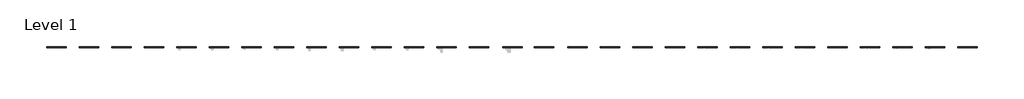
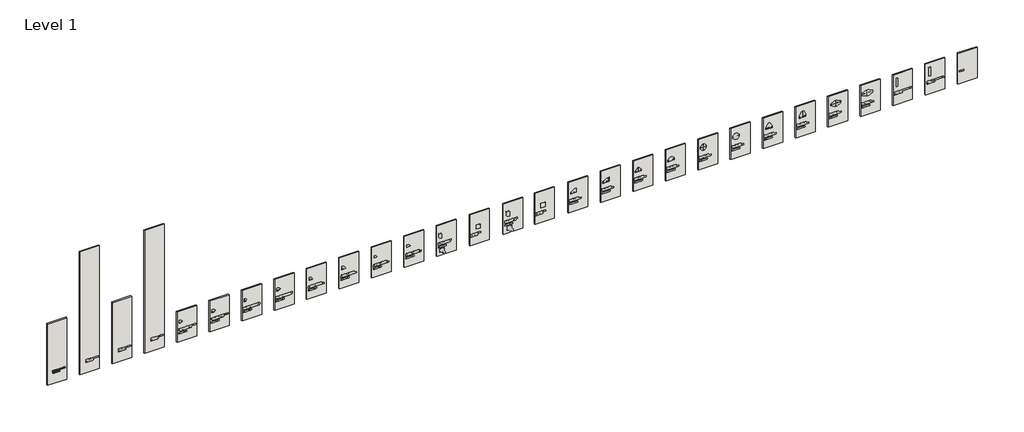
# One storey, part 1 of 21: 29 walls, 2 proxies.
"""IFC4 building model written with IfcOpenShell, lengths in millimetres."""

from ifc_helpers import new_model, si_unit, frame, origin, origin_with_axes, place, context, project, spatial, polyline, outline, extrude, element, save

model = new_model("IFC4")

# Units and contexts
model_context = context("Model", 3, world=origin())
ifc_project = project(units=[si_unit("LENGTHUNIT", "METRE", prefix="MILLI")], contexts=[model_context])

# Site, building, storey
site = spatial("IfcSite", under=ifc_project)
building = spatial("IfcBuilding", under=site)
storey = spatial("IfcBuildingStorey", under=building, Name="Level 1", Elevation=0.0)

# Proxies
placement = place(None, origin())
element("IfcBuildingElementProxy", 1, Name="2\"\" Arial", ObjectType="2\"\" Arial", at=placement, inside=storey, context=model_context, shape_type="SweptSolid", body=[
    extrude(outline(polyline([(625.0991907, -3520.867514), (625.0991907, -3502.2526403), (609.1435847, -3502.2526403), (604.559118, -3502.6543005), (602.8139736, -3504.1778393), (602.0522042, -3507.7096792), (602.0522042, -3509.3440208), (600.2793591, -3509.3440208), (600.2793591, -3482.7513441), (602.0522042, -3482.7513441), (602.0522042, -3484.3856857), (602.7585722, -3487.7651717), (604.4136893, -3489.4341391), (609.1435847, -3489.8427245), (643.7140644, -3489.8427245), (648.298531, -3489.4410643), (650.0436754, -3487.9175255), (650.8054448, -3484.3856857), (650.8054448, -3482.7513441), (652.5782899, -3482.7513441), (652.5782899, -3509.3440208), (650.8054448, -3509.3440208), (650.8054448, -3507.7096792), (650.0990768, -3504.3301932), (648.4439597, -3502.6612257), (643.7140644, -3502.2526403), (628.6448809, -3502.2526403), (628.6448809, -3520.867514), (643.7140644, -3520.867514), (648.298531, -3520.4658538), (650.0436754, -3518.942315), (650.8054448, -3515.4381758), (650.8054448, -3513.7761336), (652.5782899, -3513.7761336), (652.5782899, -3540.3688102), (650.8054448, -3540.3688102), (650.8054448, -3538.6929176), (650.0990768, -3535.3411323), (648.4439597, -3533.6860152), (643.7140644, -3533.2774298), (609.1435847, -3533.2774298), (604.559118, -3533.67909), (602.8139736, -3535.1749281), (602.0522042, -3538.6929176), (602.0522042, -3540.3688102), (600.2793591, -3540.3688102), (600.2793591, -3513.7761336), (602.0522042, -3513.7761336), (602.0522042, -3515.4381758), (602.7585722, -3518.783036), (604.4136893, -3520.4450783), (609.1435847, -3520.867514), (625.0991907, -3520.867514)])), frame((0.0, -15490.3579358, 0.0), z_axis=(0.0, 1.0, 0.0), x_axis=(0.0, 0.0, 1.0)), (0.0, 0.0, 1.0), 12.7),
    extrude(outline(polyline([(653.4647125, -3441.9759065), (653.4647125, -3443.7487516), (650.5284378, -3444.8567798), (649.9190223, -3446.4911214), (651.1586288, -3450.2514921), (652.855297, -3454.8013329), (653.4647125, -3459.8844122), (649.1364773, -3471.8164908), (638.6448354, -3476.5463862), (632.0382173, -3474.9120446), (626.6019539, -3470.2306255), (620.6947786, -3459.3857995), (616.6504757, -3451.6296021), (613.3817925, -3448.3678441), (609.8222519, -3447.2944418), (604.3859886, -3449.9606347), (602.0522042, -3457.1281921), (606.366589, -3467.9799432), (618.8942328, -3474.7735411), (618.8942328, -3476.5463862), (599.3929366, -3476.5463862), (599.3929366, -3474.7735411), (602.0660546, -3472.9522197), (602.9386268, -3470.8123403), (602.0799049, -3467.7514124), (599.9538758, -3462.2043462), (599.3929366, -3457.5160019), (604.0743557, -3444.4551196), (615.2654405, -3439.3166388), (624.365122, -3441.9343554), (632.813837, -3454.6212783), (637.3013512, -3463.7625109), (640.8608918, -3467.6821606), (643.9218197, -3468.5685832), (648.7209668, -3466.1447715), (650.8054448, -3459.5658541), (646.6711146, -3449.5520493), (635.7362614, -3443.7487516), (635.7362614, -3441.9759065), (653.4647125, -3441.9759065)])), frame((0.0, -15490.3579358, 0.0), z_axis=(0.0, 1.0, 0.0), x_axis=(0.0, 0.0, 1.0)), (0.0, 0.0, 1.0), 12.7),
    extrude(outline(polyline([(653.4647125, -3398.5412012), (653.4647125, -3400.3140463), (650.5284378, -3401.4220745), (649.9190223, -3403.0564161), (651.1586288, -3406.8167868), (652.855297, -3411.3666276), (653.4647125, -3416.4497069), (649.1364773, -3428.3817856), (638.6448354, -3433.1116809), (632.0382173, -3431.4773393), (626.6019539, -3426.7959202), (620.6947786, -3415.9510943), (616.6504757, -3408.1948969), (613.3817925, -3404.9331389), (609.8222519, -3403.8597366), (604.3859886, -3406.5259294), (602.0522042, -3413.6934868), (606.366589, -3424.5452379), (618.8942328, -3431.3388358), (618.8942328, -3433.1116809), (599.3929366, -3433.1116809), (599.3929366, -3431.3388358), (602.0660546, -3429.5175145), (602.9386268, -3427.377635), (602.0799049, -3424.3167071), (599.9538758, -3418.769641), (599.3929366, -3414.0812967), (604.0743557, -3401.0204143), (615.2654405, -3395.8819336), (624.365122, -3398.4996502), (632.813837, -3411.186573), (637.3013512, -3420.3278056), (640.8608918, -3424.2474554), (643.9218197, -3425.1338779), (648.7209668, -3422.7100662), (650.8054448, -3416.1311488), (646.6711146, -3406.117344), (635.7362614, -3400.3140463), (635.7362614, -3398.5412012), (653.4647125, -3398.5412012)])), frame((0.0, -15490.3579358, 0.0), z_axis=(0.0, 1.0, 0.0), x_axis=(0.0, 0.0, 1.0)), (0.0, 0.0, 1.0), 12.7),
    extrude(outline(polyline([(653.4647125, -3335.6051997), (653.4647125, -3337.3780448), (650.5284378, -3338.486073), (649.9190223, -3340.1204146), (651.1586288, -3343.8807853), (652.855297, -3348.4306261), (653.4647125, -3353.5137054), (649.1364773, -3365.4457841), (638.6448354, -3370.1756794), (632.0382173, -3368.5413378), (626.6019539, -3363.8599187), (620.6947786, -3353.0150928), (616.6504757, -3345.2588954), (613.3817925, -3341.9971374), (609.8222519, -3340.9237351), (604.3859886, -3343.5899279), (602.0522042, -3350.7574853), (606.366589, -3361.6092364), (618.8942328, -3368.4028343), (618.8942328, -3370.1756794), (599.3929366, -3370.1756794), (599.3929366, -3368.4028343), (602.0660546, -3366.581513), (602.9386268, -3364.4416335), (602.0799049, -3361.3807056), (599.9538758, -3355.8336395), (599.3929366, -3351.1452952), (604.0743557, -3338.0844128), (615.2654405, -3332.9459321), (624.365122, -3335.5636487), (632.813837, -3348.2505715), (637.3013512, -3357.3918041), (640.8608918, -3361.3114539), (643.9218197, -3362.1978764), (648.7209668, -3359.7740647), (650.8054448, -3353.1951473), (646.6711146, -3343.1813425), (635.7362614, -3337.3780448), (635.7362614, -3335.6051997), (653.4647125, -3335.6051997)])), frame((0.0, -15490.3579358, 0.0), z_axis=(0.0, 1.0, 0.0), x_axis=(0.0, 0.0, 1.0)), (0.0, 0.0, 1.0), 12.7),
    extrude(outline(polyline([(604.2544103, -3304.5804103), (589.6422884, -3304.5804103), (586.7683403, -3304.9820705), (585.6395366, -3306.457133), (585.2101756, -3309.8989456), (583.4373305, -3309.8989456), (583.4373305, -3290.3976494), (585.2101756, -3290.3976494), (586.7475648, -3293.4724276), (591.4151335, -3293.9433396), (636.6226839, -3295.2037217), (633.0769937, -3301.03472), (635.7431865, -3305.2036761), (636.6226839, -3310.7438171), (634.0880694, -3319.5664916), (626.761233, -3326.1246335), (616.5258225, -3328.5138193), (605.2931867, -3325.3836396), (600.8679991, -3320.722996), (599.3929366, -3314.6357661), (600.7779718, -3308.9848223), (604.2544103, -3304.5804103)]), holes=[polyline([(607.6892977, -3304.5804103), (604.7530229, -3308.1330257), (603.8250493, -3311.4501851), (606.013405, -3315.5637397), (617.2460408, -3317.8767486), (631.4703528, -3315.1897802), (633.9634162, -3310.3975583), (633.2570483, -3307.9183452), (629.9121882, -3305.2937034), (621.9967117, -3304.5804103), (607.6892977, -3304.5804103)])]), frame((0.0, -15490.3579358, 0.0), z_axis=(0.0, 1.0, 0.0), x_axis=(0.0, 0.0, 1.0)), (0.0, 0.0, 1.0), 12.7),
    extrude(outline(polyline([(635.7362614, -3250.5086343), (635.7362614, -3264.6913952), (633.9634162, -3264.6913952), (632.6891838, -3261.8312974), (627.7584584, -3261.145705), (609.2959385, -3261.145705), (605.4178399, -3264.5805924), (604.7114719, -3266.8936013), (605.2724112, -3268.5971946), (606.9206031, -3269.6705969), (611.7613013, -3270.0099306), (635.7362614, -3270.0099306), (635.7362614, -3284.1926915), (633.9634162, -3284.1926915), (632.6891838, -3281.3325937), (627.7584584, -3280.6470012), (613.9081059, -3280.6470012), (605.4386154, -3279.8713815), (601.2004075, -3276.824304), (599.3929366, -3271.6304218), (600.7017949, -3266.097206), (605.0992818, -3261.145705), (600.2793591, -3261.145705), (600.2793591, -3246.9629441), (602.0522042, -3246.9629441), (603.2987359, -3249.8091915), (608.2571621, -3250.5086343), (635.7362614, -3250.5086343)])), frame((0.0, -15490.3579358, 0.0), z_axis=(0.0, 1.0, 0.0), x_axis=(0.0, 0.0, 1.0)), (0.0, 0.0, 1.0), 12.7),
    extrude(outline(polyline([(605.5978944, -3222.1431125), (600.9372508, -3220.2179135), (599.3929366, -3215.8412022), (600.7225704, -3211.5822188), (605.5286427, -3209.1099309), (605.9303029, -3211.3675383), (608.9635301, -3211.5060418), (622.6199776, -3211.5060418), (629.8914126, -3212.0462056), (634.4966548, -3215.9589302), (636.6226839, -3224.1375633), (635.3069004, -3232.3646726), (631.518829, -3238.5419298), (626.3318721, -3240.7579862), (622.9870119, -3239.1236446), (621.5535005, -3235.051641), (622.8762091, -3231.3743724), (626.0687154, -3229.9685616), (629.2542964, -3231.4228487), (631.2487472, -3232.5031761), (632.8553881, -3231.5059508), (633.9634162, -3227.2677429), (633.167021, -3224.3591689), (631.3041486, -3222.6070993), (626.1241168, -3222.1431125), (622.4676237, -3222.1431125), (613.7765276, -3238.0017661), (606.4289156, -3241.6444088), (601.4012377, -3239.5460804), (599.3929366, -3234.2898716), (605.5978944, -3222.1431125)]), holes=[polyline([(608.2571621, -3222.1431125), (605.5978944, -3226.838382), (606.6505212, -3229.6777042), (609.8222519, -3231.0073381), (614.0881605, -3229.4283979), (620.0299617, -3222.1431125), (608.2571621, -3222.1431125)])]), frame((0.0, -15490.3579358, 0.0), z_axis=(0.0, 1.0, 0.0), x_axis=(0.0, 0.0, 1.0)), (0.0, 0.0, 1.0), 12.7),
    extrude(outline(polyline([(635.7362614, -3186.6862103), (635.7362614, -3200.8689712), (633.9634162, -3200.8689712), (633.2708986, -3198.583663), (631.6919584, -3197.600288), (627.7584584, -3197.3232809), (608.2571621, -3197.3232809), (603.1810079, -3198.0573496), (602.0522042, -3200.8689712), (600.2793591, -3200.8689712), (600.2793591, -3183.14052), (602.0522042, -3183.14052), (602.592368, -3185.4535289), (603.9635529, -3186.478455), (606.484317, -3186.6862103), (608.6172713, -3186.6862103), (616.8305303, -3186.6862103), (624.9883879, -3185.3565764), (628.686432, -3182.7665605), (629.2542964, -3179.8441362), (627.5299275, -3178.5768289), (625.9856132, -3176.0491396), (627.4260499, -3172.2887689), (631.4842032, -3170.7306043), (635.2791997, -3172.1779661), (636.6226839, -3176.0491396), (634.8913899, -3180.8690622), (627.5784038, -3186.6862103), (635.7362614, -3186.6862103)])), frame((0.0, -15490.3579358, 0.0), z_axis=(0.0, 1.0, 0.0), x_axis=(0.0, 0.0, 1.0)), (0.0, 0.0, 1.0), 12.7),
    extrude(outline(polyline([(619.7806553, -3135.273702), (632.3775509, -3139.7404407), (636.6226839, -3149.5118643), (631.4218766, -3161.2777387), (617.4260954, -3166.2984915), (605.4039895, -3162.8913048), (600.8956998, -3157.6385586), (599.3929366, -3150.3844365), (602.0106532, -3141.9426467), (611.8028523, -3136.5894855), (606.9483038, -3140.7722919), (605.5978944, -3145.1074522), (608.7142237, -3151.7140703), (619.7806553, -3155.6614208), (619.7806553, -3135.273702)]), holes=[polyline([(622.439923, -3145.0243501), (623.658754, -3155.6614208), (632.1767208, -3153.3484119), (633.9634162, -3150.0243273), (633.3401504, -3147.8359717), (630.1545693, -3145.7099426), (622.439923, -3145.0243501)])]), frame((0.0, -15490.3579358, 0.0), z_axis=(0.0, 1.0, 0.0), x_axis=(0.0, 0.0, 1.0)), (0.0, 0.0, 1.0), 12.7),
    extrude(outline(polyline([(652.5782899, -3064.3598975), (652.5782899, -3110.4538704), (637.5091065, -3110.4538704), (637.5091065, -3108.6810253), (646.7195908, -3104.581321), (649.0325997, -3097.1575321), (649.0325997, -3093.6118418), (609.1435847, -3093.6118418), (604.559118, -3094.0135021), (602.8139736, -3095.5370408), (602.0522042, -3099.04118), (602.0522042, -3100.7032223), (600.2793591, -3100.7032223), (600.2793591, -3074.1105456), (602.0522042, -3074.1105456), (602.0522042, -3075.7587375), (602.7585722, -3079.1243732), (604.4136893, -3080.7794903), (609.1435847, -3081.2019261), (649.0325997, -3081.2019261), (649.0325997, -3077.6562358), (648.3123814, -3072.7255104), (644.7874667, -3068.7643096), (637.5091065, -3066.1327426), (637.5091065, -3064.3598975), (652.5782899, -3064.3598975)])), frame((0.0, -15490.3579358, 0.0), z_axis=(0.0, 1.0, 0.0), x_axis=(0.0, 0.0, 1.0)), (0.0, 0.0, 1.0), 12.7),
    extrude(outline(polyline([(635.7362614, -3024.4708825), (635.7362614, -3038.6536434), (633.9634162, -3038.6536434), (632.6891838, -3035.7935456), (627.7584584, -3035.1079531), (609.2959385, -3035.1079531), (605.4178399, -3038.5428405), (604.7114719, -3040.8558494), (605.2724112, -3042.5594427), (606.9206031, -3043.6328451), (611.7613013, -3043.9721787), (635.7362614, -3043.9721787), (635.7362614, -3058.1549396), (633.9634162, -3058.1549396), (632.6891838, -3055.2948418), (627.7584584, -3054.6092494), (613.9081059, -3054.6092494), (605.4386154, -3053.8336296), (601.2004075, -3050.7865521), (599.3929366, -3045.5926699), (600.7017949, -3040.0594541), (605.0992818, -3035.1079531), (600.2793591, -3035.1079531), (600.2793591, -3020.9251922), (602.0522042, -3020.9251922), (603.2987359, -3023.7714397), (608.2571621, -3024.4708825), (635.7362614, -3024.4708825)])), frame((0.0, -15490.3579358, 0.0), z_axis=(0.0, 1.0, 0.0), x_axis=(0.0, 0.0, 1.0)), (0.0, 0.0, 1.0), 12.7),
    extrude(outline(polyline([(652.5782899, -3000.5374734), (652.5782899, -3014.7202343), (650.8054448, -3014.7202343), (650.1891041, -3012.4003003), (648.5478374, -3011.3961497), (644.6004869, -3011.1745441), (599.3929366, -3009.9003117), (602.9386268, -3004.0831637), (600.2239577, -2999.5817991), (599.3929366, -2994.3463659), (601.8513741, -2985.3020857), (609.0050811, -2978.9724747), (619.4482469, -2976.6040644), (628.4648263, -2978.4600116), (634.4966548, -2983.5915672), (636.6226839, -2990.57907), (631.9274144, -3000.5374734), (652.5782899, -3000.5374734)]), holes=[polyline([(628.5617788, -3000.5374734), (632.1905711, -2993.7646511), (630.0299162, -2989.4571915), (619.0050356, -2987.2411351), (607.426141, -2988.2452856), (603.1325317, -2990.7452743), (602.0522042, -2994.3463659), (603.4164639, -2998.321417), (606.9829297, -3000.2881671), (613.0355337, -3000.5374734), (628.5617788, -3000.5374734)])]), frame((0.0, -15490.3579358, 0.0), z_axis=(0.0, 1.0, 0.0), x_axis=(0.0, 0.0, 1.0)), (0.0, 0.0, 1.0), 12.7),
    extrude(outline(polyline([(619.7806553, -2941.1471622), (632.3775509, -2945.6139008), (636.6226839, -2955.3853245), (631.4218766, -2967.1511989), (617.4260954, -2972.1719516), (605.4039895, -2968.7647649), (600.8956998, -2963.5120188), (599.3929366, -2956.2578967), (602.0106532, -2947.8161069), (611.8028523, -2942.4629456), (606.9483038, -2946.6457521), (605.5978944, -2950.9809124), (608.7142237, -2957.5875305), (619.7806553, -2961.534881), (619.7806553, -2941.1471622)]), holes=[polyline([(622.439923, -2950.8978103), (623.658754, -2961.534881), (632.1767208, -2959.2218721), (633.9634162, -2955.8977875), (633.3401504, -2953.7094318), (630.1545693, -2951.5834027), (622.439923, -2950.8978103)])]), frame((0.0, -15490.3579358, 0.0), z_axis=(0.0, 1.0, 0.0), x_axis=(0.0, 0.0, 1.0)), (0.0, 0.0, 1.0), 12.7),
])
element("IfcBuildingElementProxy", 2, Name="2\"\" Arial", ObjectType="2\"\" Arial", at=placement, inside=storey, context=model_context, shape_type="SweptSolid", body=[
    extrude(outline(polyline([(570.9147125, -3517.0655923), (562.0504869, -3536.82312), (560.2776418, -3536.1583031), (561.5103232, -3531.6015371), (560.873207, -3529.5239843), (559.3565934, -3528.2913029), (554.9591065, -3527.9588945), (528.3664298, -3527.9588945), (522.2999754, -3528.4782827), (520.2501233, -3530.4658082), (519.5022042, -3536.82312), (517.7293591, -3536.82312), (517.7293591, -3508.4575982), (519.5022042, -3509.6902796), (520.319375, -3514.1639434), (522.4246286, -3515.9991151), (528.3664298, -3516.4354012), (570.9147125, -3517.0655923)])), frame((0.0, -15490.3579358, 0.0), z_axis=(0.0, 1.0, 0.0), x_axis=(0.0, 0.0, 1.0)), (0.0, 0.0, 1.0), 12.7),
    extrude(outline(polyline([(537.2306553, -3499.5933727), (529.2528523, -3499.5933727), (529.2528523, -3480.978499), (517.7293591, -3480.978499), (517.7293591, -3469.4550057), (529.2528523, -3469.4550057), (529.2528523, -3465.022893), (537.2306553, -3465.022893), (537.2306553, -3469.4550057), (570.9147125, -3469.4550057), (570.9147125, -3474.5657858), (537.2306553, -3499.5933727)]), holes=[polyline([(537.2306553, -3496.9064043), (558.6571506, -3480.978499), (537.2306553, -3480.978499), (537.2306553, -3496.9064043)])]), frame((0.0, -15490.3579358, 0.0), z_axis=(0.0, 1.0, 0.0), x_axis=(0.0, 0.0, 1.0)), (0.0, 0.0, 1.0), 12.7),
    extrude(outline(polyline([(570.0282899, -3442.3914171), (570.0282899, -3460.8123858), (568.2554448, -3460.8123858), (567.6529545, -3457.1489676), (564.5019993, -3453.4993997), (526.5935847, -3453.4993997), (521.143471, -3455.0575644), (519.5022042, -3460.5907802), (517.7293591, -3460.5907802), (517.7293591, -3442.862329), (519.5022042, -3443.9565069), (520.9634164, -3448.1323882), (526.5935847, -3449.9537095), (560.0006348, -3449.9537095), (516.8429366, -3416.1311488), (516.8429366, -3414.4968072), (559.3912193, -3414.4968072), (564.8274826, -3413.8389155), (567.1127907, -3412.0037438), (568.2554448, -3407.4054268), (570.0282899, -3407.4054268), (570.0282899, -3425.1338779), (568.2554448, -3425.1338779), (566.0116877, -3419.3028795), (559.3912193, -3418.0424975), (538.9619494, -3418.0424975), (570.0282899, -3442.3914171)])), frame((0.0, -15490.3579358, 0.0), z_axis=(0.0, 1.0, 0.0), x_axis=(0.0, 0.0, 1.0)), (0.0, 0.0, 1.0), 12.7),
    extrude(outline(polyline([(570.9147125, -3366.6299892), (570.9147125, -3368.4028343), (567.9784378, -3369.5108625), (567.3690223, -3371.1452041), (568.6086288, -3374.9055748), (570.305297, -3379.4554156), (570.9147125, -3384.5384949), (566.5864773, -3396.4705735), (556.0948354, -3401.2004689), (549.4882173, -3399.5661273), (544.0519539, -3394.8847082), (538.1447786, -3384.0398822), (534.1004757, -3376.2836849), (530.8317925, -3373.0219269), (527.2722519, -3371.9485245), (521.8359886, -3374.6147174), (519.5022042, -3381.7822748), (523.816589, -3392.6340259), (536.3442328, -3399.4276238), (536.3442328, -3401.2004689), (516.8429366, -3401.2004689), (516.8429366, -3399.4276238), (519.5160546, -3397.6063024), (520.3886268, -3395.466423), (519.5299049, -3392.4054951), (517.4038758, -3386.8584289), (516.8429366, -3382.1700846), (521.5243557, -3369.1092023), (532.7154405, -3363.9707215), (541.815122, -3366.5884381), (550.263837, -3379.275361), (554.7513512, -3388.4165936), (558.3108918, -3392.3362433), (561.3718197, -3393.2226659), (566.1709668, -3390.7988542), (568.2554448, -3384.2199368), (564.1211146, -3374.206132), (553.1862614, -3368.4028343), (553.1862614, -3366.6299892), (570.9147125, -3366.6299892)])), frame((0.0, -15490.3579358, 0.0), z_axis=(0.0, 1.0, 0.0), x_axis=(0.0, 0.0, 1.0)), (0.0, 0.0, 1.0), 12.7),
    extrude(outline(polyline([(566.4825997, -3340.0373125), (566.4825997, -3335.6051997), (565.8870346, -3327.0456819), (562.1751401, -3320.6329687), (554.0726839, -3317.8767486), (554.0726839, -3316.1039035), (570.0282899, -3316.1039035), (570.0282899, -3359.5386088), (568.2554448, -3359.5386088), (568.2554448, -3357.8627161), (567.5490768, -3354.5109308), (565.8939597, -3352.8558137), (561.1640644, -3352.4472283), (526.5935847, -3352.4472283), (522.009118, -3352.8488885), (520.2639736, -3354.3447266), (519.5022042, -3357.8627161), (519.5022042, -3359.5386088), (517.7293591, -3359.5386088), (517.7293591, -3332.9459321), (519.5022042, -3332.9459321), (519.5022042, -3334.6079744), (520.2085722, -3337.9528345), (521.8636893, -3339.6148768), (526.5935847, -3340.0373125), (542.5491907, -3340.0373125), (542.5491907, -3338.2644674), (540.1323042, -3331.3531415), (530.1392749, -3327.6273967), (530.1392749, -3325.8545516), (558.5047967, -3325.8545516), (558.5047967, -3327.6273967), (551.1225588, -3329.483344), (547.2444602, -3332.9667076), (546.0948809, -3338.2644674), (546.0948809, -3340.0373125), (566.4825997, -3340.0373125)])), frame((0.0, -15490.3579358, 0.0), z_axis=(0.0, 1.0, 0.0), x_axis=(0.0, 0.0, 1.0)), (0.0, 0.0, 1.0), 12.7),
    extrude(outline(polyline([(546.0948809, -3303.6939877), (539.9245489, -3291.8034601), (530.1669756, -3287.7383817), (524.4260045, -3289.8436353), (522.1614719, -3294.8851635), (525.2778012, -3302.1427482), (528.6988382, -3306.6441128), (529.2528523, -3309.1094755), (527.7639395, -3312.1357775), (524.169773, -3313.4446358), (519.4468028, -3311.1870284), (516.8429366, -3301.2424753), (518.3578188, -3292.0666168), (522.9024657, -3284.9544608), (529.6112302, -3280.3942323), (537.6184652, -3278.8741561), (546.1641327, -3281.7134784), (551.8981786, -3289.9544381), (556.1017606, -3283.5694256), (561.0671119, -3281.5334238), (567.9645874, -3285.1691413), (570.9147125, -3294.4004012), (568.4701253, -3304.3518794), (560.6516013, -3310.7853682), (565.5961771, -3301.3948292), (563.2346921, -3295.4461028), (557.5768231, -3293.056917), (552.8746284, -3294.3380746), (549.4258907, -3297.378227), (546.0948809, -3303.6939877)])), frame((0.0, -15490.3579358, 0.0), z_axis=(0.0, 1.0, 0.0), x_axis=(0.0, 0.0, 1.0)), (0.0, 0.0, 1.0), 12.7),
    extrude(outline(polyline([(570.9147125, -3249.3659802), (562.0504869, -3269.123508), (560.2776418, -3268.4586911), (561.5103232, -3263.9019251), (560.873207, -3261.8243723), (559.3565934, -3260.5916909), (554.9591065, -3260.2592824), (528.3664298, -3260.2592824), (522.2999754, -3260.7786707), (520.2501233, -3262.7661962), (519.5022042, -3269.123508), (517.7293591, -3269.123508), (517.7293591, -3240.7579862), (519.5022042, -3241.9906676), (520.319375, -3246.4643314), (522.4246286, -3248.2995031), (528.3664298, -3248.7357892), (570.9147125, -3249.3659802)])), frame((0.0, -15490.3579358, 0.0), z_axis=(0.0, 1.0, 0.0), x_axis=(0.0, 0.0, 1.0)), (0.0, 0.0, 1.0), 12.7),
    extrude(outline(polyline([(543.8788245, -3197.3232809), (559.5435731, -3199.9686983), (567.8330091, -3205.9174246), (570.9147125, -3214.6223711), (567.791458, -3223.3203925), (558.8095045, -3229.4422483), (543.269409, -3231.8937606), (531.164201, -3230.1901673), (524.2390248, -3227.1569401), (518.7542852, -3221.6237243), (516.8429366, -3214.6223711), (518.394176, -3208.3481615), (522.5908328, -3203.1958304), (529.3636552, -3199.5808884), (543.8788245, -3197.3232809)]), holes=[polyline([(543.8788245, -3208.8467742), (527.3692044, -3209.0268288), (520.7348856, -3211.118232), (519.5022042, -3214.3869151), (520.4232527, -3217.6209724), (524.0728205, -3219.4976952), (538.8926976, -3220.3702674), (562.5906507, -3219.802403), (567.3274712, -3217.6140473), (568.2554448, -3214.6500718), (567.0227635, -3211.118232), (559.8067298, -3209.0268288), (543.8788245, -3208.8467742)])]), frame((0.0, -15490.3579358, 0.0), z_axis=(0.0, 1.0, 0.0), x_axis=(0.0, 0.0, 1.0)), (0.0, 0.0, 1.0), 12.7),
])

# Walls
element("IfcWall", 3, ObjectType="Reference wall", at=placement, inside=storey, context=model_context, shape_type="SweptSolid", body=[
    extrude(outline(polyline([(-2874.419522, -15477.6579358), (-3788.819522, -15477.6579358), (-3788.819522, -15426.8579358), (-2874.419522, -15426.8579358), (-2874.419522, -15477.6579358)])), origin_with_axes(), (0.0, 0.0, 1.0), 3048.0),
])
element("IfcWall", 4, ObjectType="Reference wall", at=placement, inside=storey, context=model_context, shape_type="SweptSolid", body=[
    extrude(outline(polyline([(-1350.419522, -15477.6579358), (-2264.819522, -15477.6579358), (-2264.819522, -15426.8579358), (-1350.419522, -15426.8579358), (-1350.419522, -15477.6579358)])), origin_with_axes(), (0.0, 0.0, 1.0), 6096.0),
])
element("IfcWall", 5, ObjectType="Reference wall", at=placement, inside=storey, context=model_context, shape_type="SweptSolid", body=[
    extrude(outline(polyline([(173.580478, -15477.6579358), (-740.819522, -15477.6579358), (-740.819522, -15426.8579358), (173.580478, -15426.8579358), (173.580478, -15477.6579358)])), origin_with_axes(), (0.0, 0.0, 1.0), 3048.0),
])
element("IfcWall", 6, ObjectType="Reference wall", at=placement, inside=storey, context=model_context, shape_type="SweptSolid", body=[
    extrude(outline(polyline([(1697.580478, -15477.6579358), (783.180478, -15477.6579358), (783.180478, -15426.8579358), (1697.580478, -15426.8579358), (1697.580478, -15477.6579358)])), origin_with_axes(), (0.0, 0.0, 1.0), 6096.0),
])
element("IfcWall", 7, ObjectType="Reference wall", at=placement, inside=storey, context=model_context, shape_type="SweptSolid", body=[
    extrude(outline(polyline([(3221.580478, -15477.6579358), (2307.180478, -15477.6579358), (2307.180478, -15426.8579358), (3221.580478, -15426.8579358), (3221.580478, -15477.6579358)])), origin_with_axes(), (0.0, 0.0, 1.0), 1524.0),
])
element("IfcWall", 8, ObjectType="Reference wall", at=placement, inside=storey, context=model_context, shape_type="SweptSolid", body=[
    extrude(outline(polyline([(4745.580478, -15477.6579358), (3831.180478, -15477.6579358), (3831.180478, -15426.8579358), (4745.580478, -15426.8579358), (4745.580478, -15477.6579358)])), origin_with_axes(), (0.0, 0.0, 1.0), 1524.0),
])
element("IfcWall", 9, ObjectType="Reference wall", at=placement, inside=storey, context=model_context, shape_type="SweptSolid", body=[
    extrude(outline(polyline([(6269.580478, -15477.6579358), (5355.180478, -15477.6579358), (5355.180478, -15426.8579358), (6269.580478, -15426.8579358), (6269.580478, -15477.6579358)])), origin_with_axes(), (0.0, 0.0, 1.0), 1524.0),
])
element("IfcWall", 10, ObjectType="Reference wall", at=placement, inside=storey, context=model_context, shape_type="SweptSolid", body=[
    extrude(outline(polyline([(7793.580478, -15477.6579358), (6879.180478, -15477.6579358), (6879.180478, -15426.8579358), (7793.580478, -15426.8579358), (7793.580478, -15477.6579358)])), origin_with_axes(), (0.0, 0.0, 1.0), 1524.0),
])
element("IfcWall", 11, ObjectType="Reference wall", at=placement, inside=storey, context=model_context, shape_type="SweptSolid", body=[
    extrude(outline(polyline([(9317.580478, -15477.6579358), (8403.180478, -15477.6579358), (8403.180478, -15426.8579358), (9317.580478, -15426.8579358), (9317.580478, -15477.6579358)])), origin_with_axes(), (0.0, 0.0, 1.0), 1524.0),
])
element("IfcWall", 12, ObjectType="Reference wall", at=placement, inside=storey, context=model_context, shape_type="SweptSolid", body=[
    extrude(outline(polyline([(10841.580478, -15477.6579358), (9927.180478, -15477.6579358), (9927.180478, -15426.8579358), (10841.580478, -15426.8579358), (10841.580478, -15477.6579358)])), origin_with_axes(), (0.0, 0.0, 1.0), 1524.0),
])
element("IfcWall", 13, ObjectType="Reference wall", at=placement, inside=storey, context=model_context, shape_type="SweptSolid", body=[
    extrude(outline(polyline([(12365.580478, -15477.6579358), (11451.180478, -15477.6579358), (11451.180478, -15426.8579358), (12365.580478, -15426.8579358), (12365.580478, -15477.6579358)])), origin_with_axes(), (0.0, 0.0, 1.0), 1524.0),
])
element("IfcWall", 14, ObjectType="Reference wall", at=placement, inside=storey, context=model_context, shape_type="SweptSolid", body=[
    extrude(outline(polyline([(13889.580478, -15477.6579358), (12975.180478, -15477.6579358), (12975.180478, -15426.8579358), (13889.580478, -15426.8579358), (13889.580478, -15477.6579358)])), origin_with_axes(), (0.0, 0.0, 1.0), 1524.0),
])
element("IfcWall", 15, ObjectType="Reference wall", at=placement, inside=storey, context=model_context, shape_type="SweptSolid", body=[
    extrude(outline(polyline([(15413.580478, -15477.6579358), (14499.180478, -15477.6579358), (14499.180478, -15426.8579358), (15413.580478, -15426.8579358), (15413.580478, -15477.6579358)])), origin_with_axes(), (0.0, 0.0, 1.0), 1524.0),
])
element("IfcWall", 16, ObjectType="Reference wall", at=placement, inside=storey, context=model_context, shape_type="SweptSolid", body=[
    extrude(outline(polyline([(18528.1187481, -15477.6579358), (17613.7187481, -15477.6579358), (17613.7187481, -15426.8579358), (18528.1187481, -15426.8579358), (18528.1187481, -15477.6579358)])), origin_with_axes(), (0.0, 0.0, 1.0), 1524.0),
])
element("IfcWall", 17, ObjectType="Reference wall", at=placement, inside=storey, context=model_context, shape_type="SweptSolid", body=[
    extrude(outline(polyline([(21576.1187481, -15477.6579358), (20661.7187481, -15477.6579358), (20661.7187481, -15426.8579358), (21576.1187481, -15426.8579358), (21576.1187481, -15477.6579358)])), origin_with_axes(), (0.0, 0.0, 1.0), 1524.0),
])
element("IfcWall", 18, ObjectType="Reference wall", at=placement, inside=storey, context=model_context, shape_type="SweptSolid", body=[
    extrude(outline(polyline([(23100.1187481, -15477.6579358), (22185.7187481, -15477.6579358), (22185.7187481, -15426.8579358), (23100.1187481, -15426.8579358), (23100.1187481, -15477.6579358)])), origin_with_axes(), (0.0, 0.0, 1.0), 1524.0),
])
element("IfcWall", 19, ObjectType="Reference wall", at=placement, inside=storey, context=model_context, shape_type="SweptSolid", body=[
    extrude(outline(polyline([(24624.1187481, -15477.6579358), (23709.7187481, -15477.6579358), (23709.7187481, -15426.8579358), (24624.1187481, -15426.8579358), (24624.1187481, -15477.6579358)])), origin_with_axes(), (0.0, 0.0, 1.0), 1524.0),
])
element("IfcWall", 20, ObjectType="Reference wall", at=placement, inside=storey, context=model_context, shape_type="SweptSolid", body=[
    extrude(outline(polyline([(26148.1187481, -15477.6579358), (25233.7187481, -15477.6579358), (25233.7187481, -15426.8579358), (26148.1187481, -15426.8579358), (26148.1187481, -15477.6579358)])), origin_with_axes(), (0.0, 0.0, 1.0), 1524.0),
])
element("IfcWall", 21, ObjectType="Reference wall", at=placement, inside=storey, context=model_context, shape_type="SweptSolid", body=[
    extrude(outline(polyline([(27672.1187481, -15477.6579358), (26757.7187481, -15477.6579358), (26757.7187481, -15426.8579358), (27672.1187481, -15426.8579358), (27672.1187481, -15477.6579358)])), origin_with_axes(), (0.0, 0.0, 1.0), 1524.0),
])
element("IfcWall", 22, ObjectType="Reference wall", at=placement, inside=storey, context=model_context, shape_type="SweptSolid", body=[
    extrude(outline(polyline([(29196.1187481, -15477.6579358), (28281.7187481, -15477.6579358), (28281.7187481, -15426.8579358), (29196.1187481, -15426.8579358), (29196.1187481, -15477.6579358)])), origin_with_axes(), (0.0, 0.0, 1.0), 1524.0),
])
element("IfcWall", 23, ObjectType="Reference wall", at=placement, inside=storey, context=model_context, shape_type="SweptSolid", body=[
    extrude(outline(polyline([(30720.1187481, -15477.6579358), (29805.7187481, -15477.6579358), (29805.7187481, -15426.8579358), (30720.1187481, -15426.8579358), (30720.1187481, -15477.6579358)])), origin_with_axes(), (0.0, 0.0, 1.0), 1524.0),
])
element("IfcWall", 24, ObjectType="Reference wall", at=placement, inside=storey, context=model_context, shape_type="SweptSolid", body=[
    extrude(outline(polyline([(32244.1187481, -15477.6579358), (31329.7187481, -15477.6579358), (31329.7187481, -15426.8579358), (32244.1187481, -15426.8579358), (32244.1187481, -15477.6579358)])), origin_with_axes(), (0.0, 0.0, 1.0), 1524.0),
])
element("IfcWall", 25, ObjectType="Reference wall", at=placement, inside=storey, context=model_context, shape_type="SweptSolid", body=[
    extrude(outline(polyline([(33768.1187481, -15477.6579358), (32853.7187481, -15477.6579358), (32853.7187481, -15426.8579358), (33768.1187481, -15426.8579358), (33768.1187481, -15477.6579358)])), origin_with_axes(), (0.0, 0.0, 1.0), 1524.0),
])
element("IfcWall", 26, ObjectType="Reference wall", at=placement, inside=storey, context=model_context, shape_type="SweptSolid", body=[
    extrude(outline(polyline([(35292.1187481, -15477.6579358), (34377.7187481, -15477.6579358), (34377.7187481, -15426.8579358), (35292.1187481, -15426.8579358), (35292.1187481, -15477.6579358)])), origin_with_axes(), (0.0, 0.0, 1.0), 1524.0),
])
element("IfcWall", 27, ObjectType="Reference wall", at=placement, inside=storey, context=model_context, shape_type="SweptSolid", body=[
    extrude(outline(polyline([(36816.1187481, -15477.6579358), (35901.7187481, -15477.6579358), (35901.7187481, -15426.8579358), (36816.1187481, -15426.8579358), (36816.1187481, -15477.6579358)])), origin_with_axes(), (0.0, 0.0, 1.0), 1524.0),
])
element("IfcWall", 28, ObjectType="Reference wall", at=placement, inside=storey, context=model_context, shape_type="SweptSolid", body=[
    extrude(outline(polyline([(38340.1187481, -15477.6579358), (37425.7187481, -15477.6579358), (37425.7187481, -15426.8579358), (38340.1187481, -15426.8579358), (38340.1187481, -15477.6579358)])), origin_with_axes(), (0.0, 0.0, 1.0), 1524.0),
])
element("IfcWall", 29, ObjectType="Reference wall", at=placement, inside=storey, context=model_context, shape_type="SweptSolid", body=[
    extrude(outline(polyline([(39864.1187481, -15477.6579358), (38949.7187481, -15477.6579358), (38949.7187481, -15426.8579358), (39864.1187481, -15426.8579358), (39864.1187481, -15477.6579358)])), origin_with_axes(), (0.0, 0.0, 1.0), 1524.0),
])
element("IfcWall", 30, ObjectType="Reference wall", at=placement, inside=storey, context=model_context, shape_type="SweptSolid", body=[
    extrude(outline(polyline([(16953.3187481, -15477.6579358), (16038.9187481, -15477.6579358), (16038.9187481, -15426.8579358), (16953.3187481, -15426.8579358), (16953.3187481, -15477.6579358)])), origin_with_axes(), (0.0, 0.0, 1.0), 1524.0),
])
element("IfcWall", 31, ObjectType="Reference wall", at=placement, inside=storey, context=model_context, shape_type="SweptSolid", body=[
    extrude(outline(polyline([(20001.3187481, -15477.6579358), (19086.9187481, -15477.6579358), (19086.9187481, -15426.8579358), (20001.3187481, -15426.8579358), (20001.3187481, -15477.6579358)])), origin_with_axes(), (0.0, 0.0, 1.0), 1524.0),
])

save(model, "model.ifc")
